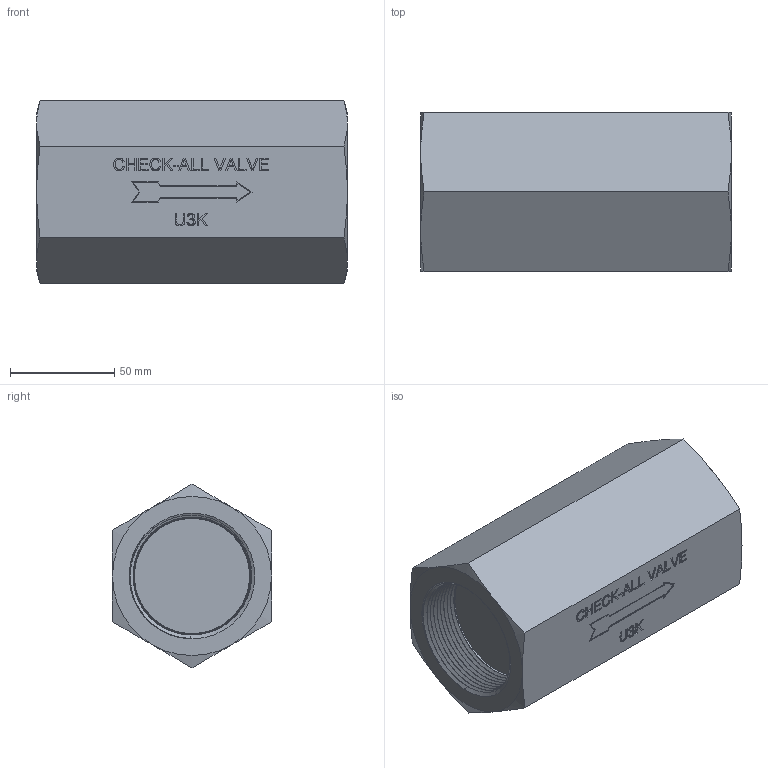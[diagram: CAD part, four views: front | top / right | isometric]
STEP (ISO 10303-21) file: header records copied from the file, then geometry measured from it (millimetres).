
FILE_DESCRIPTION( ( 'Unknown' ), '1' );
FILE_NAME( 'Y:/ENGR/3D Solid Edge Models/U3/U3-PRT/U3K.stp', 'Unknown', ( 'Unknown' ), ( 'Unknown' ), 'PSStep 14.0', 'Unknown', ' ' );
FILE_SCHEMA( ( 'AUTOMOTIVE_DESIGN { 1 0 10303 214 1 1 1 1 }' ) );
Length unit declared in the file: inch
Products named in the file (1): 1
Bounding box: 148.72 x 76.2 x 87.99 mm (x, y, z)
Volume: 643405.6 mm3; surface area: 61582.3 mm2
Topology: 1 solids, 1 shells, 223 faces, 576 edges, 378 vertices
Faces by surface type: extrusion 138, plane 57, cone 16, bspline 12
Entity records: 17301 total; most frequent: CARTESIAN_POINT 10507, ORIENTED_EDGE 1144, DIRECTION 668, EDGE_CURVE 572, VECTOR 488, VERTEX_POINT 376, LINE 350, B_SPLINE_CURVE_WITH_KNOTS 344
